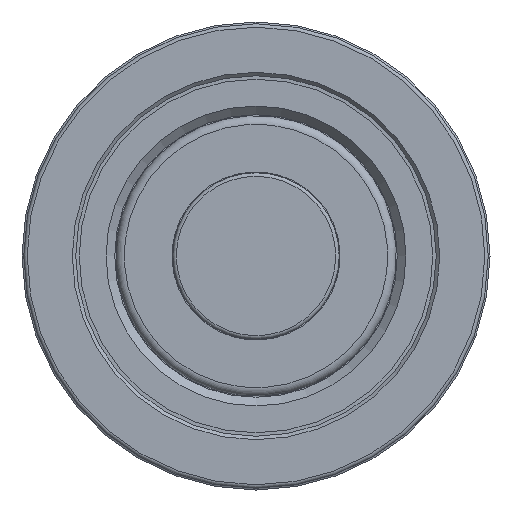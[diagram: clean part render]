
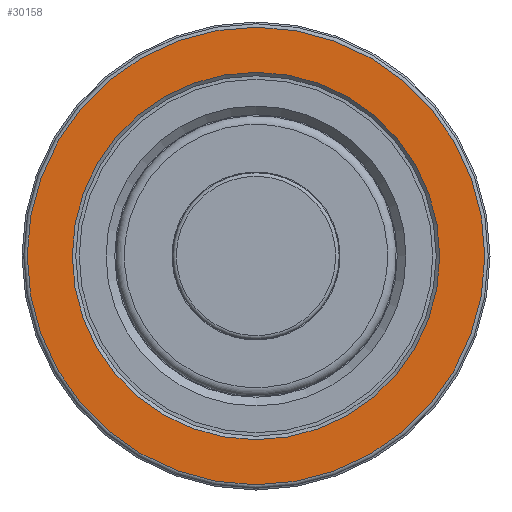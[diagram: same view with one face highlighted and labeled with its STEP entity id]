
A CAD part, front view. The second image highlights one B-rep face of the part: STEP entity #30158.
In plain terms, the highlighted planar face has unit normal (0, -1, 0).
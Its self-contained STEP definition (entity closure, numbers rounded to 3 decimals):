
#2793=PLANE('',#31859);
#3202=FACE_BOUND('',#4950,.T.);
#3317=FACE_OUTER_BOUND('',#4949,.T.);
#4949=EDGE_LOOP('',(#20910));
#4950=EDGE_LOOP('',(#20911));
#12532=CIRCLE('',#31855,13.2);
#12536=CIRCLE('',#31860,10.6);
#13094=VERTEX_POINT('',#37342);
#13097=VERTEX_POINT('',#37350);
#16198=EDGE_CURVE('',#13094,#13094,#12532,.T.);
#16202=EDGE_CURVE('',#13097,#13097,#12536,.T.);
#20910=ORIENTED_EDGE('',*,*,#16198,.F.);
#20911=ORIENTED_EDGE('',*,*,#16202,.F.);
#30158=ADVANCED_FACE('',(#3317,#3202),#2793,.T.);
#31855=AXIS2_PLACEMENT_3D('',#37343,#33103,#33104);
#31859=AXIS2_PLACEMENT_3D('',#37349,#33111,#33112);
#31860=AXIS2_PLACEMENT_3D('',#37351,#33113,#33114);
#33103=DIRECTION('center_axis',(0.,1.,0.));
#33104=DIRECTION('ref_axis',(0.003,0.,1.));
#33111=DIRECTION('center_axis',(0.,-1.,0.));
#33112=DIRECTION('ref_axis',(1.,0.,-0.003));
#33113=DIRECTION('center_axis',(0.,-1.,0.));
#33114=DIRECTION('ref_axis',(0.003,0.,1.));
#37342=CARTESIAN_POINT('',(-13.2,-20.342,0.041));
#37343=CARTESIAN_POINT('Origin',(0.,-20.342,
0.));
#37349=CARTESIAN_POINT('Origin',(-0.032,-20.342,
-10.4));
#37350=CARTESIAN_POINT('',(-0.033,-20.342,-10.6));
#37351=CARTESIAN_POINT('Origin',(0.,-20.342,
0.));
